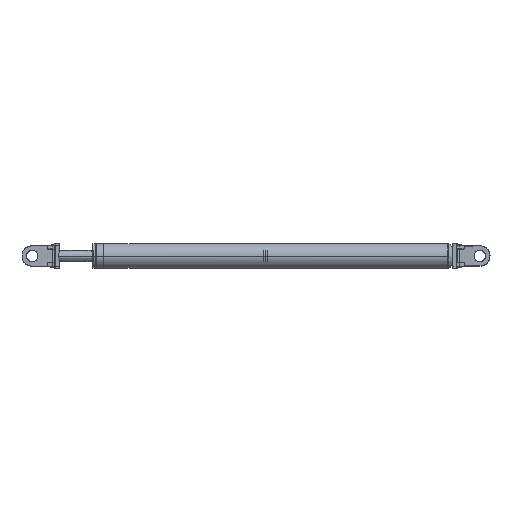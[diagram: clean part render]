
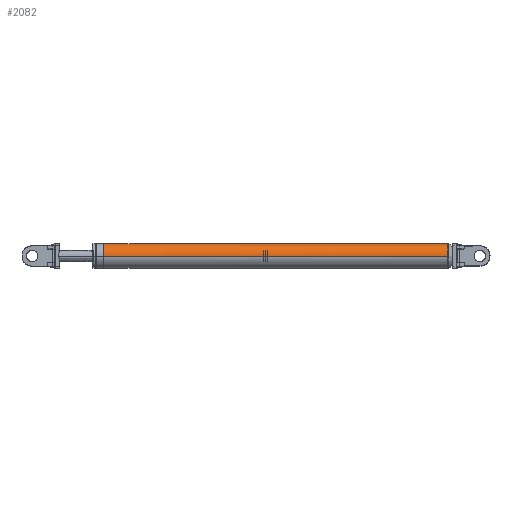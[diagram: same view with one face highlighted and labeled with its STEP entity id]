
A CAD part, left-side view. The second image highlights one B-rep face of the part: STEP entity #2082.
In plain terms, the highlighted free-form (B-spline) face has degree [2, 1] with [9, 2] control points.
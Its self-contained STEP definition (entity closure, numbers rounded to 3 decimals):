
#2082=ADVANCED_FACE('',(#2252),#6379,.T.);
#2252=FACE_OUTER_BOUND('',#2434,.T.);
#2434=EDGE_LOOP('',(#2727,#2728,#2729,#2730));
#2727=ORIENTED_EDGE('',*,*,#5251,.T.);
#2728=ORIENTED_EDGE('',*,*,#5252,.T.);
#2729=ORIENTED_EDGE('',*,*,#5253,.T.);
#2730=ORIENTED_EDGE('',*,*,#5254,.T.);
#3203=PCURVE('',#6379,#3679);
#3204=PCURVE('',#6379,#3680);
#3205=PCURVE('',#6379,#3681);
#3206=PCURVE('',#6379,#3682);
#3679=DEFINITIONAL_REPRESENTATION('',(#4207),#13648);
#3680=DEFINITIONAL_REPRESENTATION('',(#4209),#13648);
#3681=DEFINITIONAL_REPRESENTATION('',(#4210),#13648);
#3682=DEFINITIONAL_REPRESENTATION('',(#4212),#13648);
#4207=B_SPLINE_CURVE_WITH_KNOTS('',1,(#9272,#9273),.UNSPECIFIED.,.F.,.F.,
(2,2),(-8.283,-5.142),.UNSPECIFIED.);
#4208=B_SPLINE_CURVE_WITH_KNOTS('',1,(#9274,#9275),.UNSPECIFIED.,.F.,.F.,
(2,2),(-5.142,-4.142),.UNSPECIFIED.);
#4209=B_SPLINE_CURVE_WITH_KNOTS('',1,(#9276,#9277),.UNSPECIFIED.,.F.,.F.,
(2,2),(-5.142,-4.142),.UNSPECIFIED.);
#4210=B_SPLINE_CURVE_WITH_KNOTS('',1,(#9283,#9284),.UNSPECIFIED.,.F.,.F.,
(2,2),(-4.142,-1.),.UNSPECIFIED.);
#4211=B_SPLINE_CURVE_WITH_KNOTS('',1,(#9285,#9286),.UNSPECIFIED.,.F.,.F.,
(2,2),(-1.,0.),.UNSPECIFIED.);
#4212=B_SPLINE_CURVE_WITH_KNOTS('',1,(#9287,#9288),.UNSPECIFIED.,.F.,.F.,
(2,2),(-1.,0.),.UNSPECIFIED.);
#4775=SURFACE_CURVE('',#5675,(#3203),.PCURVE_S1.);
#4776=SURFACE_CURVE('',#4208,(#3204),.PCURVE_S1.);
#4777=SURFACE_CURVE('',#5676,(#3205),.PCURVE_S1.);
#4778=SURFACE_CURVE('',#4211,(#3206),.PCURVE_S1.);
#5251=EDGE_CURVE('',#6059,#6062,#4775,.T.);
#5252=EDGE_CURVE('',#6062,#6061,#4776,.T.);
#5253=EDGE_CURVE('',#6061,#6060,#4777,.T.);
#5254=EDGE_CURVE('',#6060,#6059,#4778,.T.);
#5675=(
BOUNDED_CURVE()
B_SPLINE_CURVE(2,(#9267,#9268,#9269,#9270,#9271),.UNSPECIFIED.,.F.,.F.)
B_SPLINE_CURVE_WITH_KNOTS((3,2,3),(-8.283,-6.712,-5.142),
 .UNSPECIFIED.)
CURVE()
GEOMETRIC_REPRESENTATION_ITEM()
RATIONAL_B_SPLINE_CURVE((1.,0.707,1.,0.707,1.))
REPRESENTATION_ITEM('')
);
#5676=(
BOUNDED_CURVE()
B_SPLINE_CURVE(2,(#9278,#9279,#9280,#9281,#9282),.UNSPECIFIED.,.F.,.F.)
B_SPLINE_CURVE_WITH_KNOTS((3,2,3),(-4.142,-2.571,-1.),
 .UNSPECIFIED.)
CURVE()
GEOMETRIC_REPRESENTATION_ITEM()
RATIONAL_B_SPLINE_CURVE((1.,0.707,1.,0.707,1.))
REPRESENTATION_ITEM('')
);
#6059=VERTEX_POINT('',#9263);
#6060=VERTEX_POINT('',#9264);
#6061=VERTEX_POINT('',#9265);
#6062=VERTEX_POINT('',#9266);
#6379=(
BOUNDED_SURFACE()
B_SPLINE_SURFACE(2,1,((#9245,#9246),(#9247,#9248),(#9249,#9250),(#9251,#9252),
(#9253,#9254),(#9255,#9256),(#9257,#9258),(#9259,#9260),(#9261,#9262)),
 .UNSPECIFIED.,.T.,.F.,.F.)
B_SPLINE_SURFACE_WITH_KNOTS((3,2,2,2,3),(2,2),(0.,1.571,3.142,
4.712,6.283),(0.,1.),.UNSPECIFIED.)
GEOMETRIC_REPRESENTATION_ITEM()
RATIONAL_B_SPLINE_SURFACE(((1.,1.),(0.707,0.707),
(1.,1.),(0.707,0.707),(1.,1.),(0.707,
0.707),(1.,1.),(0.707,0.707),(1.,1.)))
REPRESENTATION_ITEM('')
SURFACE()
);
#9245=CARTESIAN_POINT('',(-807.,131.5,150.));
#9246=CARTESIAN_POINT('',(-807.,-172.5,150.));
#9247=CARTESIAN_POINT('',(-807.,131.5,139.));
#9248=CARTESIAN_POINT('',(-807.,-172.5,139.));
#9249=CARTESIAN_POINT('',(-796.,131.5,139.));
#9250=CARTESIAN_POINT('',(-796.,-172.5,139.));
#9251=CARTESIAN_POINT('',(-785.,131.5,139.));
#9252=CARTESIAN_POINT('',(-785.,-172.5,139.));
#9253=CARTESIAN_POINT('',(-785.,131.5,150.));
#9254=CARTESIAN_POINT('',(-785.,-172.5,150.));
#9255=CARTESIAN_POINT('',(-785.,131.5,161.));
#9256=CARTESIAN_POINT('',(-785.,-172.5,161.));
#9257=CARTESIAN_POINT('',(-796.,131.5,161.));
#9258=CARTESIAN_POINT('',(-796.,-172.5,161.));
#9259=CARTESIAN_POINT('',(-807.,131.5,161.));
#9260=CARTESIAN_POINT('',(-807.,-172.5,161.));
#9261=CARTESIAN_POINT('',(-807.,131.5,150.));
#9262=CARTESIAN_POINT('',(-807.,-172.5,150.));
#9263=CARTESIAN_POINT('',(-807.,-172.5,150.));
#9264=CARTESIAN_POINT('',(-807.,131.5,150.));
#9265=CARTESIAN_POINT('',(-785.,131.5,150.));
#9266=CARTESIAN_POINT('',(-785.,-172.5,150.));
#9267=CARTESIAN_POINT('',(-807.,-172.5,150.));
#9268=CARTESIAN_POINT('',(-807.,-172.5,161.));
#9269=CARTESIAN_POINT('',(-796.,-172.5,161.));
#9270=CARTESIAN_POINT('',(-785.,-172.5,161.));
#9271=CARTESIAN_POINT('',(-785.,-172.5,150.));
#9272=CARTESIAN_POINT('',(6.283,1.));
#9273=CARTESIAN_POINT('',(3.142,1.));
#9274=CARTESIAN_POINT('',(-785.,-172.5,150.));
#9275=CARTESIAN_POINT('',(-785.,131.5,150.));
#9276=CARTESIAN_POINT('',(3.142,1.));
#9277=CARTESIAN_POINT('',(3.142,0.));
#9278=CARTESIAN_POINT('',(-785.,131.5,150.));
#9279=CARTESIAN_POINT('',(-785.,131.5,161.));
#9280=CARTESIAN_POINT('',(-796.,131.5,161.));
#9281=CARTESIAN_POINT('',(-807.,131.5,161.));
#9282=CARTESIAN_POINT('',(-807.,131.5,150.));
#9283=CARTESIAN_POINT('',(3.142,0.));
#9284=CARTESIAN_POINT('',(6.283,0.));
#9285=CARTESIAN_POINT('',(-807.,131.5,150.));
#9286=CARTESIAN_POINT('',(-807.,-172.5,150.));
#9287=CARTESIAN_POINT('',(6.283,0.));
#9288=CARTESIAN_POINT('',(6.283,1.));
#13648=(
GEOMETRIC_REPRESENTATION_CONTEXT(2)
PARAMETRIC_REPRESENTATION_CONTEXT()
REPRESENTATION_CONTEXT('pspace','')
);
